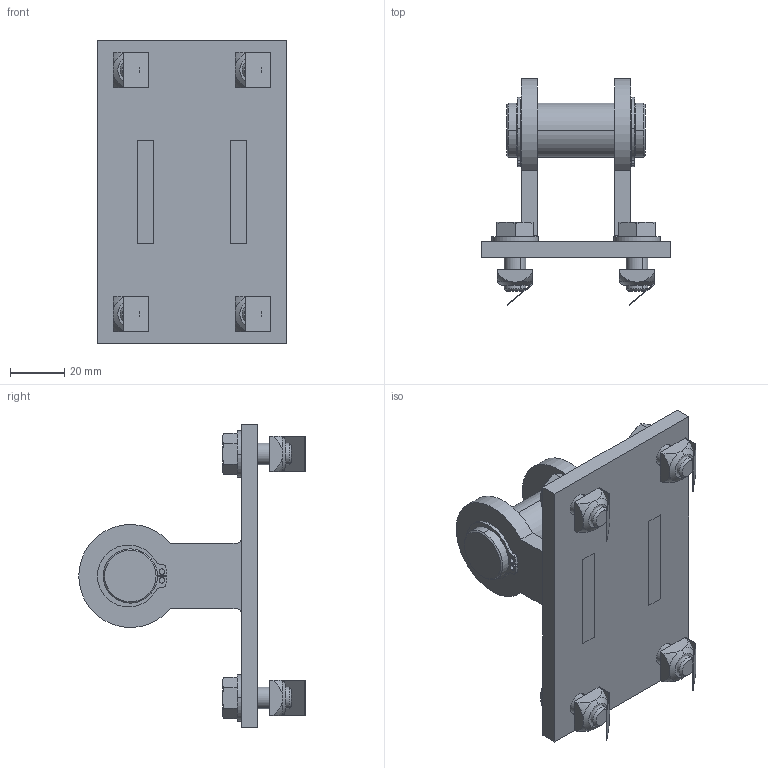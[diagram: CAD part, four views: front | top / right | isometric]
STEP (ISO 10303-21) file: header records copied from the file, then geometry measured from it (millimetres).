
FILE_DESCRIPTION (( 'STEP AP214' ), '1' );
FILE_NAME ('900.100.118.STEP', '2015-02-23T15:40:14', ( '' ), ( '' ), 'SwSTEP 2.0', 'SolidWorks 2012', '' );
FILE_SCHEMA (( 'AUTOMOTIVE_DESIGN' ));
Length unit declared in the file: millimetre
Products named in the file (7): VITI TE UNI 5739_M8x20 UNI 5739; RONDELLE UNI 6592_8.4x17 UNI 6592; 084.302.000 DADI ALUSIC 13x13-1_084.302.009; 900.100.118; 900.100.031_Default<A macchina>; 900.100.021; circlip for shafts normal_din_Circlip DIN 471 - 20 x 1.2
Assembly tree (16 placements, depth 2):
  900.100.118
    900.100.021
    circlip for shafts normal_din_Circlip DIN 471 - 20 x 1.2  x2
    900.100.031_Default<A macchina>
    RONDELLE UNI 6592_8.4x17 UNI 6592  x4
    VITI TE UNI 5739_M8x20 UNI 5739  x4
    084.302.000 DADI ALUSIC 13x13-1_084.302.009  x4
Bounding box: 70 x 83.51 x 112 mm (x, y, z)
Volume: 92368.6 mm3; surface area: 42911.1 mm2
Topology: 22 solids, 22 shells, 328 faces, 752 edges, 476 vertices
Faces by surface type: plane 158, cylinder 102, cone 44, torus 24
Entity records: 4977 total; most frequent: CARTESIAN_POINT 908, DIRECTION 796, ORIENTED_EDGE 688, EDGE_CURVE 344, AXIS2_PLACEMENT_3D 312, VERTEX_POINT 220, VECTOR 172, LINE 172
